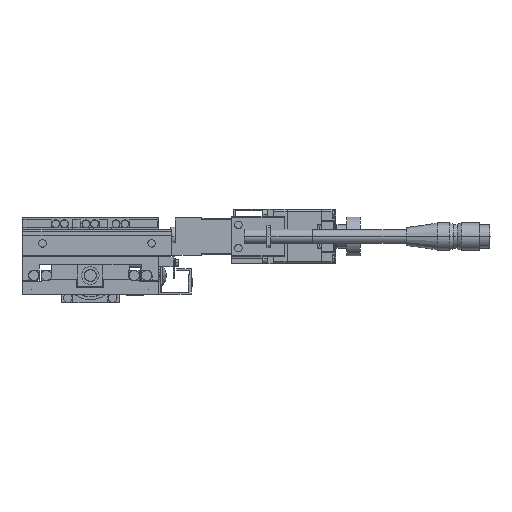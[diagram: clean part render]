
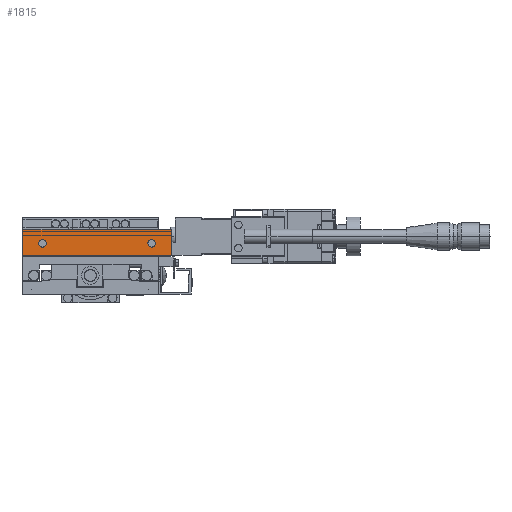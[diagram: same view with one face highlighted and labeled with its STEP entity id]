
A CAD part, left-side view. The second image highlights one B-rep face of the part: STEP entity #1815.
In plain terms, the highlighted planar face has unit normal (-1, 0, 0).
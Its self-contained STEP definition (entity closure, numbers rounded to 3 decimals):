
#1815=ADVANCED_FACE('',(#4718,#4719,#4720),#4721,.F.);
#4718=FACE_BOUND('',#7945,.T.);
#4719=FACE_BOUND('',#7946,.T.);
#4720=FACE_OUTER_BOUND('',#7947,.T.);
#4721=PLANE('',#7948);
#7945=EDGE_LOOP('',(#18283,#18284));
#7946=EDGE_LOOP('',(#18285,#18286));
#7947=EDGE_LOOP('',(#18287,#18288,#18289,#18290));
#7948=AXIS2_PLACEMENT_3D('',#18291,#18292,#18293);
#18283=ORIENTED_EDGE('',*,*,#23614,.T.);
#18284=ORIENTED_EDGE('',*,*,#23576,.T.);
#18285=ORIENTED_EDGE('',*,*,#23615,.T.);
#18286=ORIENTED_EDGE('',*,*,#23580,.T.);
#18287=ORIENTED_EDGE('',*,*,#23596,.T.);
#18288=ORIENTED_EDGE('',*,*,#23616,.F.);
#18289=ORIENTED_EDGE('',*,*,#23601,.F.);
#18290=ORIENTED_EDGE('',*,*,#23612,.T.);
#18291=CARTESIAN_POINT('',(-51.8,-41.5,33.5));
#18292=DIRECTION('',(1.0,0.,0.));
#18293=DIRECTION('',(0.,0.,-1.0));
#23576=EDGE_CURVE('',#29215,#29219,#29221,.T.);
#23580=EDGE_CURVE('',#29223,#29227,#29229,.T.);
#23596=EDGE_CURVE('',#29239,#29259,#29261,.T.);
#23601=EDGE_CURVE('',#29267,#29269,#29270,.T.);
#23612=EDGE_CURVE('',#29267,#29239,#29290,.T.);
#23614=EDGE_CURVE('',#29219,#29215,#29292,.T.);
#23615=EDGE_CURVE('',#29227,#29223,#29293,.T.);
#23616=EDGE_CURVE('',#29269,#29259,#29294,.T.);
#29215=VERTEX_POINT('',#37578);
#29219=VERTEX_POINT('',#37583);
#29221=CIRCLE('',#37586,1.95);
#29223=VERTEX_POINT('',#37588);
#29227=VERTEX_POINT('',#37593);
#29229=CIRCLE('',#37596,1.95);
#29239=VERTEX_POINT('',#37608);
#29259=VERTEX_POINT('',#37638);
#29261=LINE('',#37641,#37642);
#29267=VERTEX_POINT('',#37648);
#29269=VERTEX_POINT('',#37651);
#29270=LINE('',#37652,#37653);
#29290=LINE('',#37683,#37684);
#29292=CIRCLE('',#37687,1.95);
#29293=CIRCLE('',#37688,1.95);
#29294=LINE('',#37689,#37690);
#37578=CARTESIAN_POINT('',(-51.8,22.55,26.5));
#37583=CARTESIAN_POINT('',(-51.8,26.45,26.5));
#37586=AXIS2_PLACEMENT_3D('',#44462,#44463,#44464);
#37588=CARTESIAN_POINT('',(-51.8,-33.45,26.5));
#37593=CARTESIAN_POINT('',(-51.8,-29.55,26.5));
#37596=AXIS2_PLACEMENT_3D('',#44470,#44471,#44472);
#37608=CARTESIAN_POINT('',(-51.8,34.5,33.5));
#37638=CARTESIAN_POINT('',(-51.8,34.5,20.5));
#37641=CARTESIAN_POINT('',(-51.8,34.5,33.5));
#37642=VECTOR('',#44492,1000.0);
#37648=CARTESIAN_POINT('',(-51.8,-41.5,33.5));
#37651=CARTESIAN_POINT('',(-51.8,-41.5,20.5));
#37652=CARTESIAN_POINT('',(-51.8,-41.5,33.5));
#37653=VECTOR('',#44503,1000.0);
#37683=CARTESIAN_POINT('',(-51.8,-41.5,33.5));
#37684=VECTOR('',#44514,1000.0);
#37687=AXIS2_PLACEMENT_3D('',#44516,#44517,#44518);
#37688=AXIS2_PLACEMENT_3D('',#44519,#44520,#44521);
#37689=CARTESIAN_POINT('',(-51.8,-41.5,20.5));
#37690=VECTOR('',#44522,1000.0);
#44462=CARTESIAN_POINT('',(-51.8,24.5,26.5));
#44463=DIRECTION('',(1.0,0.,0.));
#44464=DIRECTION('',(0.,1.0,0.));
#44470=CARTESIAN_POINT('',(-51.8,-31.5,26.5));
#44471=DIRECTION('',(1.0,0.,0.));
#44472=DIRECTION('',(0.,1.0,0.));
#44492=DIRECTION('',(0.,0.,-1.0));
#44503=DIRECTION('',(0.,0.,-1.0));
#44514=DIRECTION('',(0.,1.0,0.0));
#44516=CARTESIAN_POINT('',(-51.8,24.5,26.5));
#44517=DIRECTION('',(1.0,0.,0.));
#44518=DIRECTION('',(0.,1.0,0.));
#44519=CARTESIAN_POINT('',(-51.8,-31.5,26.5));
#44520=DIRECTION('',(1.0,0.,0.));
#44521=DIRECTION('',(0.,1.0,0.));
#44522=DIRECTION('',(0.,1.0,0.0));
